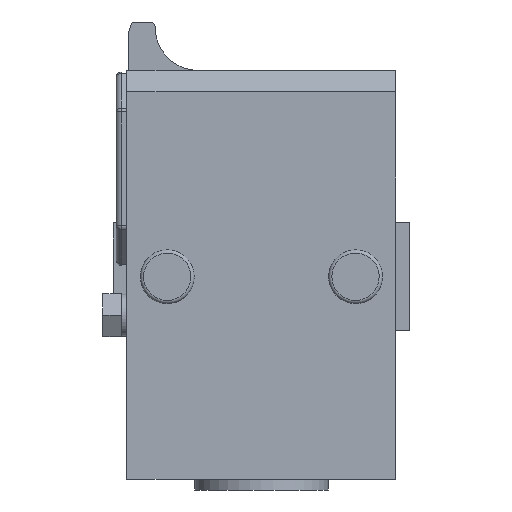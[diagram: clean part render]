
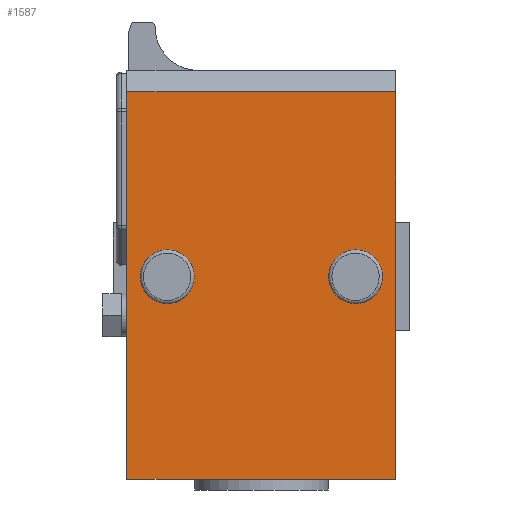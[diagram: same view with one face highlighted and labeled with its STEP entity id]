
A CAD part, front view. The second image highlights one B-rep face of the part: STEP entity #1587.
In plain terms, the highlighted planar face has unit normal (0, -1, 0).
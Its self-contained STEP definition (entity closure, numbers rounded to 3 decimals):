
#56=FACE_BOUND('',#253,.T.);
#57=FACE_BOUND('',#254,.T.);
#85=CIRCLE('',#1691,5.);
#86=CIRCLE('',#1692,5.);
#151=FACE_OUTER_BOUND('',#252,.T.);
#252=EDGE_LOOP('',(#1015,#1016,#1017,#1018));
#253=EDGE_LOOP('',(#1019));
#254=EDGE_LOOP('',(#1020));
#381=LINE('',#2346,#523);
#382=LINE('',#2348,#524);
#383=LINE('',#2350,#525);
#384=LINE('',#2351,#526);
#523=VECTOR('',#1867,72.);
#524=VECTOR('',#1868,50.);
#525=VECTOR('',#1869,72.);
#526=VECTOR('',#1870,50.);
#667=VERTEX_POINT('',#2344);
#668=VERTEX_POINT('',#2345);
#669=VERTEX_POINT('',#2347);
#670=VERTEX_POINT('',#2349);
#671=VERTEX_POINT('',#2352);
#672=VERTEX_POINT('',#2354);
#806=EDGE_CURVE('',#667,#668,#381,.T.);
#807=EDGE_CURVE('',#667,#669,#382,.T.);
#808=EDGE_CURVE('',#670,#669,#383,.T.);
#809=EDGE_CURVE('',#668,#670,#384,.T.);
#810=EDGE_CURVE('',#671,#671,#85,.T.);
#811=EDGE_CURVE('',#672,#672,#86,.T.);
#1015=ORIENTED_EDGE('',*,*,#806,.F.);
#1016=ORIENTED_EDGE('',*,*,#807,.T.);
#1017=ORIENTED_EDGE('',*,*,#808,.F.);
#1018=ORIENTED_EDGE('',*,*,#809,.F.);
#1019=ORIENTED_EDGE('',*,*,#810,.F.);
#1020=ORIENTED_EDGE('',*,*,#811,.F.);
#1428=PLANE('',#1690);
#1587=ADVANCED_FACE('',(#151,#56,#57),#1428,.T.);
#1690=AXIS2_PLACEMENT_3D('',#2343,#1865,#1866);
#1691=AXIS2_PLACEMENT_3D('',#2353,#1871,#1872);
#1692=AXIS2_PLACEMENT_3D('',#2355,#1873,#1874);
#1865=DIRECTION('center_axis',(0.,-1.,0.));
#1866=DIRECTION('ref_axis',(1.,0.,0.));
#1867=DIRECTION('',(0.,0.,-1.));
#1868=DIRECTION('',(-1.,0.,0.));
#1869=DIRECTION('',(0.,0.,1.));
#1870=DIRECTION('',(-1.,0.,0.));
#1871=DIRECTION('center_axis',(0.,-1.,0.));
#1872=DIRECTION('ref_axis',(-0.005,0.,
-1.));
#1873=DIRECTION('center_axis',(0.,-1.,0.));
#1874=DIRECTION('ref_axis',(-0.639,0.,0.769));
#2343=CARTESIAN_POINT('Origin',(50.,0.,76.));
#2344=CARTESIAN_POINT('',(50.,0.,72.));
#2345=CARTESIAN_POINT('',(50.,0.,0.));
#2346=CARTESIAN_POINT('',(50.,0.,72.));
#2347=CARTESIAN_POINT('',(0.,0.,72.));
#2348=CARTESIAN_POINT('',(50.,0.,72.));
#2349=CARTESIAN_POINT('',(0.,0.,0.));
#2350=CARTESIAN_POINT('',(0.,0.,0.));
#2351=CARTESIAN_POINT('',(50.,0.,0.));
#2352=CARTESIAN_POINT('',(7.524,0.,42.65));
#2353=CARTESIAN_POINT('Origin',(7.5,0.,37.65));
#2354=CARTESIAN_POINT('',(45.696,0.,33.805));
#2355=CARTESIAN_POINT('Origin',(42.5,0.,
37.65));
